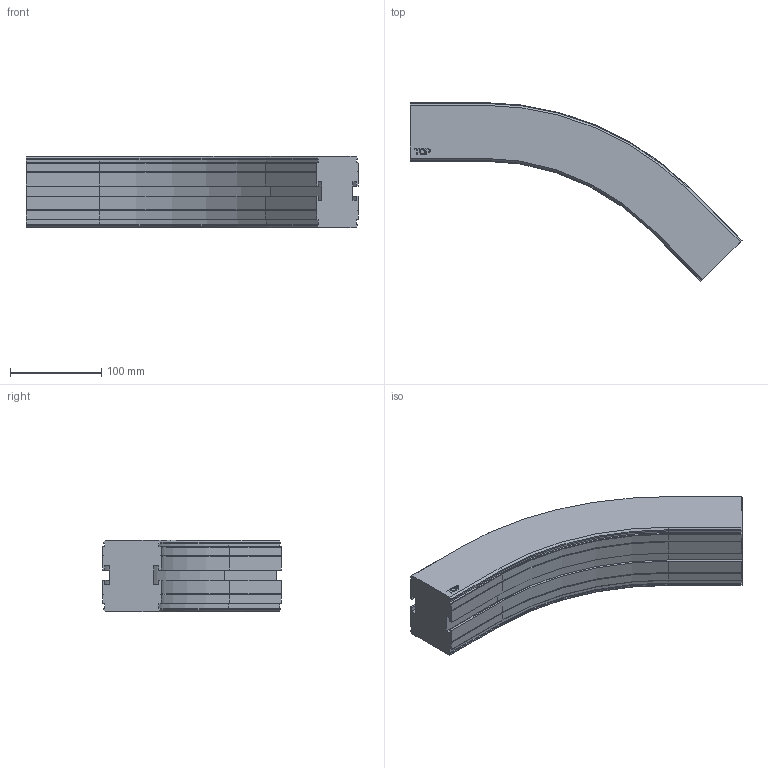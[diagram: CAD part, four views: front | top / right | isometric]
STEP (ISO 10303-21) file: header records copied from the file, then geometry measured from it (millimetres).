
FILE_DESCRIPTION((''),'2;1');
FILE_NAME('C:\Vault Klient\Projekt\Koncept konstruktion\Serie 620 Balk\620-5200.stp','2009-11-26T14:49:16',('Mathias'),(''),'Autodesk Inventor 2010','Autodesk Inventor 2010','');
FILE_SCHEMA(('AUTOMOTIVE_DESIGN { 1 0 10303 214 1 1 1 1 }'));
Length unit declared in the file: millimetre
Products named in the file (1): 620-5200
Bounding box: 363.55 x 195.84 x 78 mm (x, y, z)
Volume: 1799622.9 mm3; surface area: 148820.4 mm2
Topology: 1 solids, 1 shells, 169 faces, 446 edges, 284 vertices
Faces by surface type: plane 109, cylinder 30, bspline 14, cone 12, torus 4
Entity records: 5295 total; most frequent: CARTESIAN_POINT 1094, ORIENTED_EDGE 892, DIRECTION 802, EDGE_CURVE 446, VECTOR 346, LINE 346, VERTEX_POINT 284, AXIS2_PLACEMENT_3D 228
